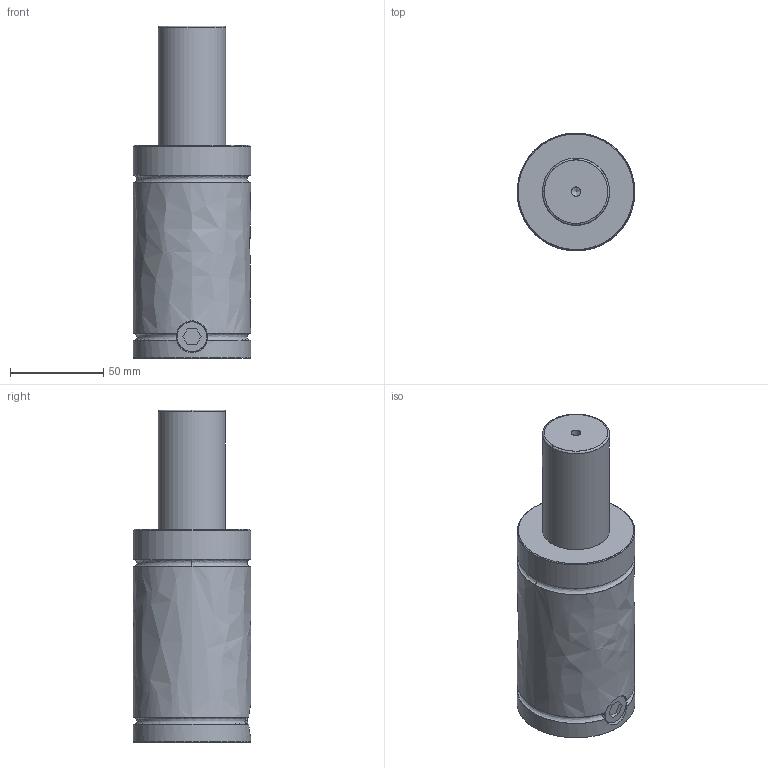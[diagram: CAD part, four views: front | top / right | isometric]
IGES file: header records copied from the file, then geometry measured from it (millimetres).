
Start section: VISI Layer Mapping Iges    VISI  0      LAYER_EMPTY  1      wwww  7      W_PD700  8      S_PD700  10     W_PD1000  11     S_PD1000  13     W_PD2000  14     S_PD2000  16     W_PD3000  17     S_PD3000  19     W_PD4000  20     S_PD4000  22     W_PD7000  23     S_PD7000  28     W_350  29     MS-350  30     MC-350  31     MP-350  32     MB-350  33     MH-350  34     MK-350  35     MPL-350  39     W_500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
Global section: file name: E:\だ錶臢\だ錶臢3D\SYLINDER\PT Series\PT1500\PT1500\PT1500-63.igs; native system: VISI 16.0; preprocessor: 2.0; author: 11; organization: 0; date: 500.; units: mil
Bounding box: 63 x 63 x 178 mm (x, y, z)
Surface area: 38766.4 mm2 (no closed solid volume)
Topology: 0 solids, 0 shells, 33 faces, 476 edges, 450 vertices
Faces by surface type: bspline 33
